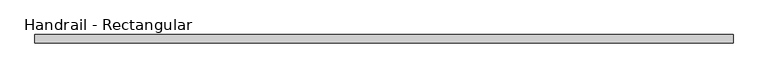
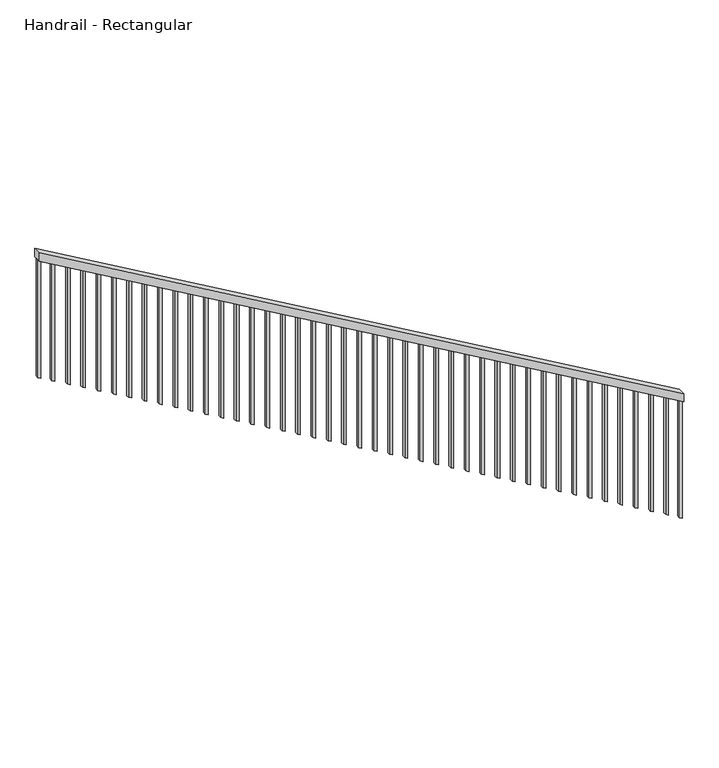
"""IFC4 building model written with IfcOpenShell, lengths in millimetres: railing geometry, Handrail - Rectangular."""

import ifcopenshell
import ifcopenshell.guid

model = None  # the IFC model being written
_history = None  # IfcOwnerHistory: only IFC2X3 demands one
_inside = {}  # id of a spatial element -> (the spatial element, [elements in it])
_under = {}  # id of a project, library or spatial element -> (it, [spatial elements below it])
_declared = {}  # id of a project -> (the project, [libraries it declares])
_typed = {}  # id of a type object -> (the type object, [elements of that type])
_made_of = {}  # id of a material, layer set ... -> (it, [elements and type objects made of it])


def new_model(schema):
    """Start an empty IFC model of exactly this schema.

    Asked for "IFC4X3", IfcOpenShell would pick the latest addendum, in which some entities
    have other attributes; the version numbers below select the first issue.
    IFC2X3 requires an IfcOwnerHistory on every rooted entity: one is made here for all.
    """
    global model, _history
    if schema == "IFC4X3":
        model = ifcopenshell.file(schema_version=(4, 3, 0, 0))
    else:
        model = ifcopenshell.file(schema=schema)
    _inside.clear()
    _under.clear()
    _declared.clear()
    _typed.clear()
    _made_of.clear()
    _history = None
    if model.schema == "IFC2X3":
        org = make("IfcOrganization", Name="unknown")
        user = make(
            "IfcPersonAndOrganization",
            ThePerson=make("IfcPerson", FamilyName="unknown"),
            TheOrganization=org,
        )
        app = make(
            "IfcApplication",
            ApplicationDeveloper=org,
            Version="unknown",
            ApplicationFullName="unknown",
            ApplicationIdentifier="unknown",
        )
        _history = make(
            "IfcOwnerHistory",
            OwningUser=user,
            OwningApplication=app,
            ChangeAction="ADDED",
            CreationDate=0,
        )
    return model


def make(cls, **values):
    """One entity of the class cls with the attributes given. An attribute that is None is left unset."""
    return model.create_entity(
        cls, **{name: value for name, value in values.items() if value is not None}
    )


def rooted(cls, **values):
    """An entity with a GlobalId (a new one), such as an element, a storey or a relation."""
    return make(cls, GlobalId=ifcopenshell.guid.new(), OwnerHistory=_history, **values)


def si_unit(unit_type, name, prefix=None):
    """IfcSIUnit, for example si_unit("LENGTHUNIT", "METRE", prefix="MILLI")."""
    return make("IfcSIUnit", UnitType=unit_type, Prefix=prefix, Name=name)


def assignment(units):
    """IfcUnitAssignment: the units of a project."""
    return None if units is None else make("IfcUnitAssignment", Units=units)


def point(xyz):
    """IfcCartesianPoint."""
    return None if xyz is None else make("IfcCartesianPoint", Coordinates=xyz)


def direction(xyz):
    """IfcDirection."""
    return None if xyz is None else make("IfcDirection", DirectionRatios=xyz)


def frame(location, z_axis=None, x_axis=None):
    """IfcAxis2Placement3D, a coordinate frame: its origin and axes. An axis left out is left unset."""
    return make(
        "IfcAxis2Placement3D",
        Location=point(location),
        Axis=direction(z_axis),
        RefDirection=direction(x_axis),
    )


def origin():
    """The frame at (0, 0, 0) with its axes left unset."""
    return frame((0.0, 0.0, 0.0))


def place(relative_to, where):
    """IfcLocalPlacement: puts the frame where relative to a parent placement (None: the world)."""
    return make(
        "IfcLocalPlacement", PlacementRelTo=relative_to, RelativePlacement=where
    )


def context(
    kind, dimensions, precision=None, world=None, true_north=None, identifier=None
):
    """IfcGeometricRepresentationContext, for example the 3D "Model" context."""
    return make(
        "IfcGeometricRepresentationContext",
        ContextIdentifier=identifier,
        ContextType=kind,
        CoordinateSpaceDimension=dimensions,
        Precision=precision,
        WorldCoordinateSystem=world,
        TrueNorth=true_north,
    )


def project(units=None, contexts=None):
    """IfcProject with its units and contexts."""
    return rooted(
        "IfcProject",
        Name="project",
        RepresentationContexts=contexts,
        UnitsInContext=assignment(units),
    )


def spatial(cls, under=None, at=None, **own):
    """A site, building, storey or space (cls), placed at a placement, below another one or the project."""
    s = rooted(cls, ObjectPlacement=at, **own)
    if under is not None:
        _under.setdefault(under.id(), (under, []))[1].append(s)
    return s


def polyline(points):
    """IfcPolyline through the points."""
    return make("IfcPolyline", Points=[point(p) for p in points])


def outline(outer, holes=None, kind="AREA"):
    """IfcArbitraryClosedProfileDef: a profile drawn as a closed curve; with holes, ...WithVoids."""
    if holes is None:
        return make("IfcArbitraryClosedProfileDef", ProfileType=kind, OuterCurve=outer)
    return make(
        "IfcArbitraryProfileDefWithVoids",
        ProfileType=kind,
        OuterCurve=outer,
        InnerCurves=holes,
    )


def extrude(swept, where, along, depth):
    """IfcExtrudedAreaSolid: the profile swept, set in the frame where, extruded along a direction by depth."""
    return make(
        "IfcExtrudedAreaSolid",
        SweptArea=swept,
        Position=where,
        ExtrudedDirection=direction(along),
        Depth=depth,
    )


def shape(context_of_items, identifier, shape_type, items):
    """IfcShapeRepresentation: the items that make up one representation, for example the "Body"."""
    return make(
        "IfcShapeRepresentation",
        ContextOfItems=context_of_items,
        RepresentationIdentifier=identifier,
        RepresentationType=shape_type,
        Items=items,
    )


def source(mapping_origin, context_of_items, identifier, shape_type, items):
    """IfcRepresentationMap: a shape defined once, which mapped items show again and again."""
    return make(
        "IfcRepresentationMap",
        MappingOrigin=mapping_origin,
        MappedRepresentation=shape(context_of_items, identifier, shape_type, items),
    )


def transform(
    local_origin,
    x_axis=None,
    y_axis=None,
    z_axis=None,
    scale=None,
    scale2=None,
    scale3=None,
    uniform=True,
):
    """IfcCartesianTransformationOperator3D, or its non-uniform kind. x_axis, y_axis, z_axis: its Axis1, 2, 3."""
    if uniform:
        return make(
            "IfcCartesianTransformationOperator3D",
            Axis1=direction(x_axis),
            Axis2=direction(y_axis),
            LocalOrigin=point(local_origin),
            Scale=scale,
            Axis3=direction(z_axis),
        )
    return make(
        "IfcCartesianTransformationOperator3DnonUniform",
        Axis1=direction(x_axis),
        Axis2=direction(y_axis),
        LocalOrigin=point(local_origin),
        Scale=scale,
        Axis3=direction(z_axis),
        Scale2=scale2,
        Scale3=scale3,
    )


def mapped(mapping_source, mapping_target):
    """IfcMappedItem: shows the shape of a source again, moved by a transform."""
    return make(
        "IfcMappedItem", MappingSource=mapping_source, MappingTarget=mapping_target
    )


def made_of(thing, what):
    """Note that an element or type object is made of a material, layer set ...; save() writes the relation."""
    if what is not None:
        _made_of.setdefault(what.id(), (what, []))[1].append(thing)
    return thing


def element(
    cls,
    number,
    at=None,
    inside=None,
    cuts=None,
    type_object=None,
    material=None,
    context=None,
    identifier="Body",
    shape_type=None,
    held_by="IfcProductDefinitionShape",
    body=None,
    shapes=None,
    **own,
):
    """One element of the class cls, such as IfcWall. Its Tag is "e" and its number.

    at: its placement. inside: the storey or other place that contains it. cuts: it is an
    opening in that element (IfcRelVoidsElement). A single representation is given by context,
    identifier, shape_type and body (its items); several are given by shapes. held_by: the class
    of the entity that holds the representations. save() writes the other relations.
    """
    e = rooted(cls, Tag="e%d" % number, ObjectPlacement=at, **own)
    if body is not None:
        shapes = [shape(context, identifier, shape_type, body)]
    if shapes is not None:
        e.Representation = make(held_by, Representations=shapes)
    if inside is not None:
        _inside.setdefault(inside.id(), (inside, []))[1].append(e)
    if cuts is not None:
        rooted(
            "IfcRelVoidsElement", RelatingBuildingElement=cuts, RelatedOpeningElement=e
        )
    if type_object is not None:
        _typed.setdefault(type_object.id(), (type_object, []))[1].append(e)
    return made_of(e, material)


def aggregate(whole, parts):
    """IfcRelAggregates: a whole, such as a stair, and the parts it consists of."""
    return rooted("IfcRelAggregates", RelatingObject=whole, RelatedObjects=parts)


def save(model, path):
    """Write the relations noted so far, then the file.

    IfcRelAggregates (storeys below a building ...), IfcRelContainedInSpatialStructure (elements
    in a storey), IfcRelDefinesByType, IfcRelAssociatesMaterial and IfcRelDeclares: one each for
    every whole, place, type object, material and project.
    """
    for whole, parts in _under.values():
        aggregate(whole, parts)
    for where, things in _inside.values():
        rooted(
            "IfcRelContainedInSpatialStructure",
            RelatedElements=things,
            RelatingStructure=where,
        )
    for kind, things in _typed.values():
        rooted("IfcRelDefinesByType", RelatedObjects=things, RelatingType=kind)
    for what, things in _made_of.values():
        rooted("IfcRelAssociatesMaterial", RelatedObjects=things, RelatingMaterial=what)
    for by, libraries in _declared.values():
        rooted("IfcRelDeclares", RelatingContext=by, RelatedDefinitions=libraries)
    model.write(path)


def handrail_rectangular_afaba309(model_context):
    return source(origin(), model_context, "Body", "SweptSolid", [
        extrude(outline(polyline([(1032.6379887, 55694.0814628), (1091.3806452, 55694.0814628), (3569.1096774, 51426.8814628), (3510.367021, 51426.8814628), (1032.6379887, 55694.0814628)])), frame((0.0, 6293.7924581, 0.0), z_axis=(0.0, 1.0, 0.0), x_axis=(0.0, 0.0, 1.0)), (0.0, 0.0, 1.0), 50.8),
        extrude(outline(polyline([(3445.8428274, 51538.0064628), (3456.9041177, 51518.9564628), (2634.0582633, 51518.9564628), (2622.996973, 51538.0064628), (3445.8428274, 51538.0064628)])), frame((0.0, 6309.6674581, 0.0), z_axis=(0.0, 1.0, 0.0), x_axis=(0.0, 0.0, 1.0)), (0.0, 0.0, 1.0), 19.05),
        extrude(outline(polyline([(3386.849279, 51639.6064628), (3397.9105693, 51620.5564628), (2575.064715, 51620.5564628), (2564.0034246, 51639.6064628), (3386.849279, 51639.6064628)])), frame((0.0, 6309.6674581, 0.0), z_axis=(0.0, 1.0, 0.0), x_axis=(0.0, 0.0, 1.0)), (0.0, 0.0, 1.0), 19.05),
        extrude(outline(polyline([(3327.8557306, 51741.2064628), (3338.917021, 51722.1564628), (2516.0711666, 51722.1564628), (2505.0098762, 51741.2064628), (3327.8557306, 51741.2064628)])), frame((0.0, 6309.6674581, 0.0), z_axis=(0.0, 1.0, 0.0), x_axis=(0.0, 0.0, 1.0)), (0.0, 0.0, 1.0), 19.05),
        extrude(outline(polyline([(3268.8621823, 51842.8064628), (3279.9234726, 51823.7564628), (2457.0776182, 51823.7564628), (2446.0163279, 51842.8064628), (3268.8621823, 51842.8064628)])), frame((0.0, 6309.6674581, 0.0), z_axis=(0.0, 1.0, 0.0), x_axis=(0.0, 0.0, 1.0)), (0.0, 0.0, 1.0), 19.05),
        extrude(outline(polyline([(3209.8686339, 51944.4064628), (3220.9299242, 51925.3564628), (2398.0840698, 51925.3564628), (2387.0227795, 51944.4064628), (3209.8686339, 51944.4064628)])), frame((0.0, 6309.6674581, 0.0), z_axis=(0.0, 1.0, 0.0), x_axis=(0.0, 0.0, 1.0)), (0.0, 0.0, 1.0), 19.05),
        extrude(outline(polyline([(3150.8750855, 52046.0064628), (3161.9363758, 52026.9564628), (2339.0905214, 52026.9564628), (2328.0292311, 52046.0064628), (3150.8750855, 52046.0064628)])), frame((0.0, 6309.6674581, 0.0), z_axis=(0.0, 1.0, 0.0), x_axis=(0.0, 0.0, 1.0)), (0.0, 0.0, 1.0), 19.05),
        extrude(outline(polyline([(3091.8815371, 52147.6064628), (3102.9428274, 52128.5564628), (2280.096973, 52128.5564628), (2269.0356827, 52147.6064628), (3091.8815371, 52147.6064628)])), frame((0.0, 6309.6674581, 0.0), z_axis=(0.0, 1.0, 0.0), x_axis=(0.0, 0.0, 1.0)), (0.0, 0.0, 1.0), 19.05),
        extrude(outline(polyline([(3032.8879887, 52249.2064628), (3043.949279, 52230.1564628), (2221.1034246, 52230.1564628), (2210.0421343, 52249.2064628), (3032.8879887, 52249.2064628)])), frame((0.0, 6309.6674581, 0.0), z_axis=(0.0, 1.0, 0.0), x_axis=(0.0, 0.0, 1.0)), (0.0, 0.0, 1.0), 19.05),
        extrude(outline(polyline([(2973.8944403, 52350.8064628), (2984.9557306, 52331.7564628), (2162.1098762, 52331.7564628), (2151.0485859, 52350.8064628), (2973.8944403, 52350.8064628)])), frame((0.0, 6309.6674581, 0.0), z_axis=(0.0, 1.0, 0.0), x_axis=(0.0, 0.0, 1.0)), (0.0, 0.0, 1.0), 19.05),
        extrude(outline(polyline([(2914.9008919, 52452.4064628), (2925.9621823, 52433.3564628), (2103.1163279, 52433.3564628), (2092.0550375, 52452.4064628), (2914.9008919, 52452.4064628)])), frame((0.0, 6309.6674581, 0.0), z_axis=(0.0, 1.0, 0.0), x_axis=(0.0, 0.0, 1.0)), (0.0, 0.0, 1.0), 19.05),
        extrude(outline(polyline([(2855.9073435, 52554.0064628), (2866.9686339, 52534.9564628), (2044.1227795, 52534.9564628), (2033.0614891, 52554.0064628), (2855.9073435, 52554.0064628)])), frame((0.0, 6309.6674581, 0.0), z_axis=(0.0, 1.0, 0.0), x_axis=(0.0, 0.0, 1.0)), (0.0, 0.0, 1.0), 19.05),
        extrude(outline(polyline([(2796.9137952, 52655.6064628), (2807.9750855, 52636.5564628), (1985.1292311, 52636.5564628), (1974.0679408, 52655.6064628), (2796.9137952, 52655.6064628)])), frame((0.0, 6309.6674581, 0.0), z_axis=(0.0, 1.0, 0.0), x_axis=(0.0, 0.0, 1.0)), (0.0, 0.0, 1.0), 19.05),
        extrude(outline(polyline([(2737.9202468, 52757.2064628), (2748.9815371, 52738.1564628), (1926.1356827, 52738.1564628), (1915.0743924, 52757.2064628), (2737.9202468, 52757.2064628)])), frame((0.0, 6309.6674581, 0.0), z_axis=(0.0, 1.0, 0.0), x_axis=(0.0, 0.0, 1.0)), (0.0, 0.0, 1.0), 19.05),
        extrude(outline(polyline([(2678.9266984, 52858.8064628), (2689.9879887, 52839.7564628), (1867.1421343, 52839.7564628), (1856.080844, 52858.8064628), (2678.9266984, 52858.8064628)])), frame((0.0, 6309.6674581, 0.0), z_axis=(0.0, 1.0, 0.0), x_axis=(0.0, 0.0, 1.0)), (0.0, 0.0, 1.0), 19.05),
        extrude(outline(polyline([(2619.93315, 52960.4064628), (2630.9944403, 52941.3564628), (1808.1485859, 52941.3564628), (1797.0872956, 52960.4064628), (2619.93315, 52960.4064628)])), frame((0.0, 6309.6674581, 0.0), z_axis=(0.0, 1.0, 0.0), x_axis=(0.0, 0.0, 1.0)), (0.0, 0.0, 1.0), 19.05),
        extrude(outline(polyline([(2560.9396016, 53062.0064628), (2572.0008919, 53042.9564628), (1749.1550375, 53042.9564628), (1738.0937472, 53062.0064628), (2560.9396016, 53062.0064628)])), frame((0.0, 6309.6674581, 0.0), z_axis=(0.0, 1.0, 0.0), x_axis=(0.0, 0.0, 1.0)), (0.0, 0.0, 1.0), 19.05),
        extrude(outline(polyline([(2501.9460532, 53163.6064628), (2513.0073435, 53144.5564628), (1690.1614891, 53144.5564628), (1679.1001988, 53163.6064628), (2501.9460532, 53163.6064628)])), frame((0.0, 6309.6674581, 0.0), z_axis=(0.0, 1.0, 0.0), x_axis=(0.0, 0.0, 1.0)), (0.0, 0.0, 1.0), 19.05),
        extrude(outline(polyline([(2442.9525048, 53265.2064628), (2454.0137952, 53246.1564628), (1631.1679408, 53246.1564628), (1620.1066504, 53265.2064628), (2442.9525048, 53265.2064628)])), frame((0.0, 6309.6674581, 0.0), z_axis=(0.0, 1.0, 0.0), x_axis=(0.0, 0.0, 1.0)), (0.0, 0.0, 1.0), 19.05),
        extrude(outline(polyline([(2383.9589564, 53366.8064628), (2395.0202468, 53347.7564628), (1572.1743924, 53347.7564628), (1561.113102, 53366.8064628), (2383.9589564, 53366.8064628)])), frame((0.0, 6309.6674581, 0.0), z_axis=(0.0, 1.0, 0.0), x_axis=(0.0, 0.0, 1.0)), (0.0, 0.0, 1.0), 19.05),
        extrude(outline(polyline([(2324.9654081, 53468.4064628), (2336.0266984, 53449.3564628), (1513.180844, 53449.3564628), (1502.1195537, 53468.4064628), (2324.9654081, 53468.4064628)])), frame((0.0, 6309.6674581, 0.0), z_axis=(0.0, 1.0, 0.0), x_axis=(0.0, 0.0, 1.0)), (0.0, 0.0, 1.0), 19.05),
        extrude(outline(polyline([(2265.9718597, 53570.0064628), (2277.03315, 53550.9564628), (1454.1872956, 53550.9564628), (1443.1260053, 53570.0064628), (2265.9718597, 53570.0064628)])), frame((0.0, 6309.6674581, 0.0), z_axis=(0.0, 1.0, 0.0), x_axis=(0.0, 0.0, 1.0)), (0.0, 0.0, 1.0), 19.05),
        extrude(outline(polyline([(2206.9783113, 53671.6064628), (2218.0396016, 53652.5564628), (1395.1937472, 53652.5564628), (1384.1324569, 53671.6064628), (2206.9783113, 53671.6064628)])), frame((0.0, 6309.6674581, 0.0), z_axis=(0.0, 1.0, 0.0), x_axis=(0.0, 0.0, 1.0)), (0.0, 0.0, 1.0), 19.05),
        extrude(outline(polyline([(2147.9847629, 53773.2064628), (2159.0460532, 53754.1564628), (1336.2001988, 53754.1564628), (1325.1389085, 53773.2064628), (2147.9847629, 53773.2064628)])), frame((0.0, 6309.6674581, 0.0), z_axis=(0.0, 1.0, 0.0), x_axis=(0.0, 0.0, 1.0)), (0.0, 0.0, 1.0), 19.05),
        extrude(outline(polyline([(2088.9912145, 53874.8064628), (2100.0525048, 53855.7564628), (1277.2066504, 53855.7564628), (1266.1453601, 53874.8064628), (2088.9912145, 53874.8064628)])), frame((0.0, 6309.6674581, 0.0), z_axis=(0.0, 1.0, 0.0), x_axis=(0.0, 0.0, 1.0)), (0.0, 0.0, 1.0), 19.05),
        extrude(outline(polyline([(2029.9976661, 53976.4064628), (2041.0589564, 53957.3564628), (1218.213102, 53957.3564628), (1207.1518117, 53976.4064628), (2029.9976661, 53976.4064628)])), frame((0.0, 6309.6674581, 0.0), z_axis=(0.0, 1.0, 0.0), x_axis=(0.0, 0.0, 1.0)), (0.0, 0.0, 1.0), 19.05),
        extrude(outline(polyline([(1971.0041177, 54078.0064628), (1982.0654081, 54058.9564628), (1159.2195537, 54058.9564628), (1148.1582633, 54078.0064628), (1971.0041177, 54078.0064628)])), frame((0.0, 6309.6674581, 0.0), z_axis=(0.0, 1.0, 0.0), x_axis=(0.0, 0.0, 1.0)), (0.0, 0.0, 1.0), 19.05),
        extrude(outline(polyline([(1912.0105693, 54179.6064628), (1923.0718597, 54160.5564628), (1100.2260053, 54160.5564628), (1089.164715, 54179.6064628), (1912.0105693, 54179.6064628)])), frame((0.0, 6309.6674581, 0.0), z_axis=(0.0, 1.0, 0.0), x_axis=(0.0, 0.0, 1.0)), (0.0, 0.0, 1.0), 19.05),
        extrude(outline(polyline([(1853.017021, 54281.2064628), (1864.0783113, 54262.1564628), (1041.2324569, 54262.1564628), (1030.1711666, 54281.2064628), (1853.017021, 54281.2064628)])), frame((0.0, 6309.6674581, 0.0), z_axis=(0.0, 1.0, 0.0), x_axis=(0.0, 0.0, 1.0)), (0.0, 0.0, 1.0), 19.05),
        extrude(outline(polyline([(1794.0234726, 54382.8064628), (1805.0847629, 54363.7564628), (982.2389085, 54363.7564628), (971.1776182, 54382.8064628), (1794.0234726, 54382.8064628)])), frame((0.0, 6309.6674581, 0.0), z_axis=(0.0, 1.0, 0.0), x_axis=(0.0, 0.0, 1.0)), (0.0, 0.0, 1.0), 19.05),
        extrude(outline(polyline([(1735.0299242, 54484.4064628), (1746.0912145, 54465.3564628), (923.2453601, 54465.3564628), (912.1840698, 54484.4064628), (1735.0299242, 54484.4064628)])), frame((0.0, 6309.6674581, 0.0), z_axis=(0.0, 1.0, 0.0), x_axis=(0.0, 0.0, 1.0)), (0.0, 0.0, 1.0), 19.05),
        extrude(outline(polyline([(1676.0363758, 54586.0064628), (1687.0976661, 54566.9564628), (864.2518117, 54566.9564628), (853.1905214, 54586.0064628), (1676.0363758, 54586.0064628)])), frame((0.0, 6309.6674581, 0.0), z_axis=(0.0, 1.0, 0.0), x_axis=(0.0, 0.0, 1.0)), (0.0, 0.0, 1.0), 19.05),
        extrude(outline(polyline([(1617.0428274, 54687.6064628), (1628.1041177, 54668.5564628), (805.2582633, 54668.5564628), (794.196973, 54687.6064628), (1617.0428274, 54687.6064628)])), frame((0.0, 6309.6674581, 0.0), z_axis=(0.0, 1.0, 0.0), x_axis=(0.0, 0.0, 1.0)), (0.0, 0.0, 1.0), 19.05),
        extrude(outline(polyline([(1558.049279, 54789.2064628), (1569.1105693, 54770.1564628), (746.264715, 54770.1564628), (735.2034246, 54789.2064628), (1558.049279, 54789.2064628)])), frame((0.0, 6309.6674581, 0.0), z_axis=(0.0, 1.0, 0.0), x_axis=(0.0, 0.0, 1.0)), (0.0, 0.0, 1.0), 19.05),
        extrude(outline(polyline([(1499.0557306, 54890.8064628), (1510.117021, 54871.7564628), (687.2711666, 54871.7564628), (676.2098762, 54890.8064628), (1499.0557306, 54890.8064628)])), frame((0.0, 6309.6674581, 0.0), z_axis=(0.0, 1.0, 0.0), x_axis=(0.0, 0.0, 1.0)), (0.0, 0.0, 1.0), 19.05),
        extrude(outline(polyline([(1440.0621823, 54992.4064628), (1451.1234726, 54973.3564628), (628.2776182, 54973.3564628), (617.2163279, 54992.4064628), (1440.0621823, 54992.4064628)])), frame((0.0, 6309.6674581, 0.0), z_axis=(0.0, 1.0, 0.0), x_axis=(0.0, 0.0, 1.0)), (0.0, 0.0, 1.0), 19.05),
        extrude(outline(polyline([(1381.0686339, 55094.0064628), (1392.1299242, 55074.9564628), (569.2840698, 55074.9564628), (558.2227795, 55094.0064628), (1381.0686339, 55094.0064628)])), frame((0.0, 6309.6674581, 0.0), z_axis=(0.0, 1.0, 0.0), x_axis=(0.0, 0.0, 1.0)), (0.0, 0.0, 1.0), 19.05),
        extrude(outline(polyline([(1322.0750855, 55195.6064628), (1333.1363758, 55176.5564628), (510.2905214, 55176.5564628), (499.2292311, 55195.6064628), (1322.0750855, 55195.6064628)])), frame((0.0, 6309.6674581, 0.0), z_axis=(0.0, 1.0, 0.0), x_axis=(0.0, 0.0, 1.0)), (0.0, 0.0, 1.0), 19.05),
        extrude(outline(polyline([(1263.0815371, 55297.2064628), (1274.1428274, 55278.1564628), (451.296973, 55278.1564628), (440.2356827, 55297.2064628), (1263.0815371, 55297.2064628)])), frame((0.0, 6309.6674581, 0.0), z_axis=(0.0, 1.0, 0.0), x_axis=(0.0, 0.0, 1.0)), (0.0, 0.0, 1.0), 19.05),
        extrude(outline(polyline([(1204.0879887, 55398.8064628), (1215.149279, 55379.7564628), (392.3034246, 55379.7564628), (381.2421343, 55398.8064628), (1204.0879887, 55398.8064628)])), frame((0.0, 6309.6674581, 0.0), z_axis=(0.0, 1.0, 0.0), x_axis=(0.0, 0.0, 1.0)), (0.0, 0.0, 1.0), 19.05),
        extrude(outline(polyline([(1145.0944403, 55500.4064628), (1156.1557306, 55481.3564628), (333.3098762, 55481.3564628), (322.2485859, 55500.4064628), (1145.0944403, 55500.4064628)])), frame((0.0, 6309.6674581, 0.0), z_axis=(0.0, 1.0, 0.0), x_axis=(0.0, 0.0, 1.0)), (0.0, 0.0, 1.0), 19.05),
        extrude(outline(polyline([(1086.1008919, 55602.0064628), (1097.1621823, 55582.9564628), (274.3163279, 55582.9564628), (263.2550375, 55602.0064628), (1086.1008919, 55602.0064628)])), frame((0.0, 6309.6674581, 0.0), z_axis=(0.0, 1.0, 0.0), x_axis=(0.0, 0.0, 1.0)), (0.0, 0.0, 1.0), 19.05),
        extrude(outline(polyline([(3499.3057306, 51445.9314628), (3510.367021, 51426.8814628), (2687.5211666, 51426.8814628), (2676.4598762, 51445.9314628), (3499.3057306, 51445.9314628)])), frame((0.0, 6309.6674581, 0.0), z_axis=(0.0, 1.0, 0.0), x_axis=(0.0, 0.0, 1.0)), (0.0, 0.0, 1.0), 19.05),
        extrude(outline(polyline([(1032.6379887, 55694.0814628), (1043.699279, 55675.0314628), (220.8534246, 55675.0314628), (209.7921343, 55694.0814628), (1032.6379887, 55694.0814628)])), frame((0.0, 6309.6674581, 0.0), z_axis=(0.0, 1.0, 0.0), x_axis=(0.0, 0.0, 1.0)), (0.0, 0.0, 1.0), 19.05),
    ])


if __name__ == "__main__":
    model = new_model("IFC4")
    model_context = context("Model", 3, world=origin())
    ifc_project = project(units=[si_unit("LENGTHUNIT", "METRE", prefix="MILLI")], contexts=[model_context])
    site = spatial("IfcSite", under=ifc_project)
    building = spatial("IfcBuilding", under=site)
    placement = place(None, origin())
    handrail_rectangular_shape = handrail_rectangular_afaba309(model_context)
    element("IfcRailing", 1, ObjectType="Handrail - Rectangular", at=placement, inside=building, context=model_context, shape_type="MappedRepresentation", body=[
        mapped(handrail_rectangular_shape, transform((0.0, 0.0, 0.0), x_axis=(1.0, 0.0, 0.0), y_axis=(0.0, 1.0, 0.0), z_axis=(0.0, 0.0, 1.0))),
    ])
    save(model, "model.ifc")
